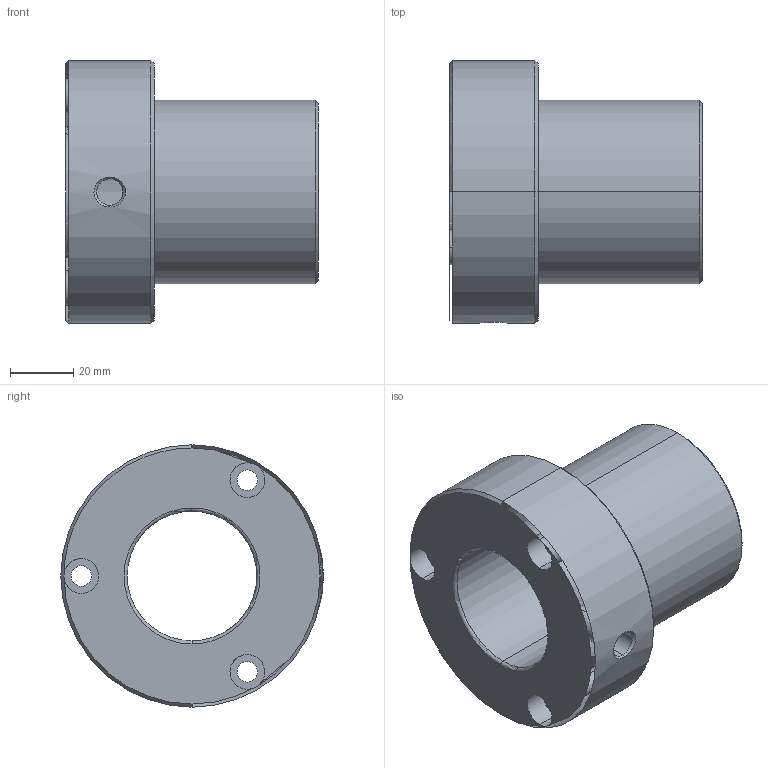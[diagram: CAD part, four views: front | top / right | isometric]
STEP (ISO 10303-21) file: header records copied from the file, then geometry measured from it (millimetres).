
FILE_DESCRIPTION(('CATIA V5 STEP Exchange'),'2;1');
FILE_NAME('C:\Users\Utente\Desktop\IO LAVORO\3D X SITO CF\X SITO\3D files 346\346-41.stp','2020-12-25T21:24:36+00:00',('none'),('none'),'CATIA Version 5 Release 20 GA (IN-10)','CATIA V5 STEP AP203','none');
FILE_SCHEMA(('CONFIG_CONTROL_DESIGN'));
Length unit declared in the file: millimetre
Products named in the file (1): 346-41
Bounding box: 80 x 83 x 83 mm (x, y, z)
Volume: 175677.8 mm3; surface area: 37100.6 mm2
Topology: 1 solids, 1 shells, 39 faces, 153 edges, 118 vertices
Faces by surface type: cylinder 22, cone 8, plane 7, torus 2
Entity records: 2012 total; most frequent: CARTESIAN_POINT 722, ORIENTED_EDGE 298, DIRECTION 195, EDGE_CURVE 149, AXIS2_PLACEMENT_3D 127, VERTEX_POINT 114, CIRCLE 87, EDGE_LOOP 51
